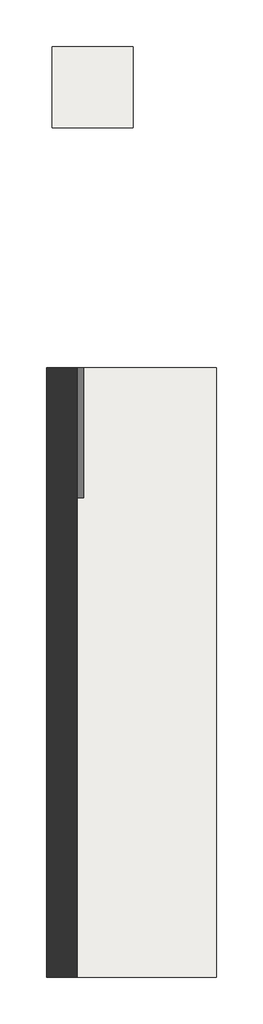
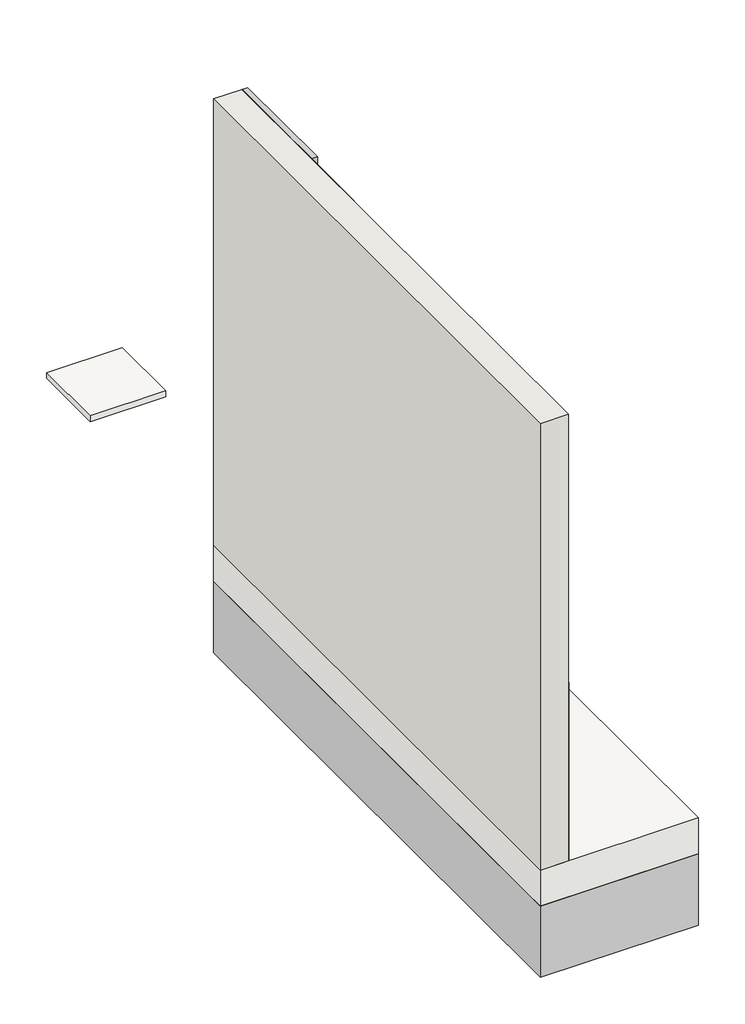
# One storey: 2 slabs, 1 proxy, 1 wall.
"""IFC4 building model written with IfcOpenShell, lengths in millimetres."""

import ifcopenshell
import ifcopenshell.guid

model = None  # the IFC model being written
_history = None  # IfcOwnerHistory: only IFC2X3 demands one
_inside = {}  # id of a spatial element -> (the spatial element, [elements in it])
_under = {}  # id of a project, library or spatial element -> (it, [spatial elements below it])
_declared = {}  # id of a project -> (the project, [libraries it declares])
_typed = {}  # id of a type object -> (the type object, [elements of that type])
_made_of = {}  # id of a material, layer set ... -> (it, [elements and type objects made of it])


def new_model(schema):
    """Start an empty IFC model of exactly this schema.

    Asked for "IFC4X3", IfcOpenShell would pick the latest addendum, in which some entities
    have other attributes; the version numbers below select the first issue.
    IFC2X3 requires an IfcOwnerHistory on every rooted entity: one is made here for all.
    """
    global model, _history
    if schema == "IFC4X3":
        model = ifcopenshell.file(schema_version=(4, 3, 0, 0))
    else:
        model = ifcopenshell.file(schema=schema)
    _inside.clear()
    _under.clear()
    _declared.clear()
    _typed.clear()
    _made_of.clear()
    _history = None
    if model.schema == "IFC2X3":
        org = make("IfcOrganization", Name="unknown")
        user = make(
            "IfcPersonAndOrganization",
            ThePerson=make("IfcPerson", FamilyName="unknown"),
            TheOrganization=org,
        )
        app = make(
            "IfcApplication",
            ApplicationDeveloper=org,
            Version="unknown",
            ApplicationFullName="unknown",
            ApplicationIdentifier="unknown",
        )
        _history = make(
            "IfcOwnerHistory",
            OwningUser=user,
            OwningApplication=app,
            ChangeAction="ADDED",
            CreationDate=0,
        )
    return model


def make(cls, **values):
    """One entity of the class cls with the attributes given. An attribute that is None is left unset."""
    return model.create_entity(
        cls, **{name: value for name, value in values.items() if value is not None}
    )


def rooted(cls, **values):
    """An entity with a GlobalId (a new one), such as an element, a storey or a relation."""
    return make(cls, GlobalId=ifcopenshell.guid.new(), OwnerHistory=_history, **values)


def si_unit(unit_type, name, prefix=None):
    """IfcSIUnit, for example si_unit("LENGTHUNIT", "METRE", prefix="MILLI")."""
    return make("IfcSIUnit", UnitType=unit_type, Prefix=prefix, Name=name)


def assignment(units):
    """IfcUnitAssignment: the units of a project."""
    return None if units is None else make("IfcUnitAssignment", Units=units)


def point(xyz):
    """IfcCartesianPoint."""
    return None if xyz is None else make("IfcCartesianPoint", Coordinates=xyz)


def direction(xyz):
    """IfcDirection."""
    return None if xyz is None else make("IfcDirection", DirectionRatios=xyz)


def frame(location, z_axis=None, x_axis=None):
    """IfcAxis2Placement3D, a coordinate frame: its origin and axes. An axis left out is left unset."""
    return make(
        "IfcAxis2Placement3D",
        Location=point(location),
        Axis=direction(z_axis),
        RefDirection=direction(x_axis),
    )


def origin():
    """The frame at (0, 0, 0) with its axes left unset."""
    return frame((0.0, 0.0, 0.0))


def place(relative_to, where):
    """IfcLocalPlacement: puts the frame where relative to a parent placement (None: the world)."""
    return make(
        "IfcLocalPlacement", PlacementRelTo=relative_to, RelativePlacement=where
    )


def context(
    kind, dimensions, precision=None, world=None, true_north=None, identifier=None
):
    """IfcGeometricRepresentationContext, for example the 3D "Model" context."""
    return make(
        "IfcGeometricRepresentationContext",
        ContextIdentifier=identifier,
        ContextType=kind,
        CoordinateSpaceDimension=dimensions,
        Precision=precision,
        WorldCoordinateSystem=world,
        TrueNorth=true_north,
    )


def project(units=None, contexts=None):
    """IfcProject with its units and contexts."""
    return rooted(
        "IfcProject",
        Name="project",
        RepresentationContexts=contexts,
        UnitsInContext=assignment(units),
    )


def spatial(cls, under=None, at=None, **own):
    """A site, building, storey or space (cls), placed at a placement, below another one or the project."""
    s = rooted(cls, ObjectPlacement=at, **own)
    if under is not None:
        _under.setdefault(under.id(), (under, []))[1].append(s)
    return s


def polyline(points):
    """IfcPolyline through the points."""
    return make("IfcPolyline", Points=[point(p) for p in points])


def outline(outer, holes=None, kind="AREA"):
    """IfcArbitraryClosedProfileDef: a profile drawn as a closed curve; with holes, ...WithVoids."""
    if holes is None:
        return make("IfcArbitraryClosedProfileDef", ProfileType=kind, OuterCurve=outer)
    return make(
        "IfcArbitraryProfileDefWithVoids",
        ProfileType=kind,
        OuterCurve=outer,
        InnerCurves=holes,
    )


def extrude(swept, where, along, depth):
    """IfcExtrudedAreaSolid: the profile swept, set in the frame where, extruded along a direction by depth."""
    return make(
        "IfcExtrudedAreaSolid",
        SweptArea=swept,
        Position=where,
        ExtrudedDirection=direction(along),
        Depth=depth,
    )


def shape(context_of_items, identifier, shape_type, items):
    """IfcShapeRepresentation: the items that make up one representation, for example the "Body"."""
    return make(
        "IfcShapeRepresentation",
        ContextOfItems=context_of_items,
        RepresentationIdentifier=identifier,
        RepresentationType=shape_type,
        Items=items,
    )


def source(mapping_origin, context_of_items, identifier, shape_type, items):
    """IfcRepresentationMap: a shape defined once, which mapped items show again and again."""
    return make(
        "IfcRepresentationMap",
        MappingOrigin=mapping_origin,
        MappedRepresentation=shape(context_of_items, identifier, shape_type, items),
    )


def transform(
    local_origin,
    x_axis=None,
    y_axis=None,
    z_axis=None,
    scale=None,
    scale2=None,
    scale3=None,
    uniform=True,
):
    """IfcCartesianTransformationOperator3D, or its non-uniform kind. x_axis, y_axis, z_axis: its Axis1, 2, 3."""
    if uniform:
        return make(
            "IfcCartesianTransformationOperator3D",
            Axis1=direction(x_axis),
            Axis2=direction(y_axis),
            LocalOrigin=point(local_origin),
            Scale=scale,
            Axis3=direction(z_axis),
        )
    return make(
        "IfcCartesianTransformationOperator3DnonUniform",
        Axis1=direction(x_axis),
        Axis2=direction(y_axis),
        LocalOrigin=point(local_origin),
        Scale=scale,
        Axis3=direction(z_axis),
        Scale2=scale2,
        Scale3=scale3,
    )


def mapped(mapping_source, mapping_target):
    """IfcMappedItem: shows the shape of a source again, moved by a transform."""
    return make(
        "IfcMappedItem", MappingSource=mapping_source, MappingTarget=mapping_target
    )


def made_of(thing, what):
    """Note that an element or type object is made of a material, layer set ...; save() writes the relation."""
    if what is not None:
        _made_of.setdefault(what.id(), (what, []))[1].append(thing)
    return thing


def element(
    cls,
    number,
    at=None,
    inside=None,
    cuts=None,
    type_object=None,
    material=None,
    context=None,
    identifier="Body",
    shape_type=None,
    held_by="IfcProductDefinitionShape",
    body=None,
    shapes=None,
    **own,
):
    """One element of the class cls, such as IfcWall. Its Tag is "e" and its number.

    at: its placement. inside: the storey or other place that contains it. cuts: it is an
    opening in that element (IfcRelVoidsElement). A single representation is given by context,
    identifier, shape_type and body (its items); several are given by shapes. held_by: the class
    of the entity that holds the representations. save() writes the other relations.
    """
    e = rooted(cls, Tag="e%d" % number, ObjectPlacement=at, **own)
    if body is not None:
        shapes = [shape(context, identifier, shape_type, body)]
    if shapes is not None:
        e.Representation = make(held_by, Representations=shapes)
    if inside is not None:
        _inside.setdefault(inside.id(), (inside, []))[1].append(e)
    if cuts is not None:
        rooted(
            "IfcRelVoidsElement", RelatingBuildingElement=cuts, RelatedOpeningElement=e
        )
    if type_object is not None:
        _typed.setdefault(type_object.id(), (type_object, []))[1].append(e)
    return made_of(e, material)


def aggregate(whole, parts):
    """IfcRelAggregates: a whole, such as a stair, and the parts it consists of."""
    return rooted("IfcRelAggregates", RelatingObject=whole, RelatedObjects=parts)


def save(model, path):
    """Write the relations noted so far, then the file.

    IfcRelAggregates (storeys below a building ...), IfcRelContainedInSpatialStructure (elements
    in a storey), IfcRelDefinesByType, IfcRelAssociatesMaterial and IfcRelDeclares: one each for
    every whole, place, type object, material and project.
    """
    for whole, parts in _under.values():
        aggregate(whole, parts)
    for where, things in _inside.values():
        rooted(
            "IfcRelContainedInSpatialStructure",
            RelatedElements=things,
            RelatingStructure=where,
        )
    for kind, things in _typed.values():
        rooted("IfcRelDefinesByType", RelatedObjects=things, RelatingType=kind)
    for what, things in _made_of.values():
        rooted("IfcRelAssociatesMaterial", RelatedObjects=things, RelatingMaterial=what)
    for by, libraries in _declared.values():
        rooted("IfcRelDeclares", RelatingContext=by, RelatedDefinitions=libraries)
    model.write(path)


def generic_models_ae3b01ae(model_context):
    return source(origin(), model_context, "Body", "SweptSolid", [
        extrude(outline(polyline([(-217.0499776, 874.3260192), (-216.0386675, 874.3260192), (-216.0386675, -2125.6739808), (-217.0499776, -2125.6739808), (-217.0499776, 874.3260192)])), frame((0.0, 0.0, -2.523798), z_axis=(0.0, 0.0, 1.0), x_axis=(1.0, 0.0, 0.0)), (0.0, 0.0, 1.0), 1000.0),
        extrude(outline(polyline([(-217.0499776, 874.3260192), (-185.0386675, 874.3260192), (-185.0386675, 234.3260192), (-217.0499776, 234.3260192), (-217.0499776, 874.3260192)])), frame((0.0, 0.0, -2.523798), z_axis=(0.0, 0.0, 1.0), x_axis=(1.0, 0.0, 0.0)), (0.0, 0.0, 1.0), 2500.0),
        extrude(outline(polyline([(-216.0386675, 874.3260192), (-215.0386675, 874.3260192), (-215.0386675, -154.1098976), (-216.0386675, -154.1098976), (-216.0386675, 874.3260192)])), frame((0.0, 0.0, -2.523798), z_axis=(0.0, 0.0, 1.0), x_axis=(1.0, 0.0, 0.0)), (0.0, 0.0, 1.0), 2500.0),
        extrude(outline(polyline([(469.984728, 874.3260192), (469.984728, -2125.6739808), (-367.0499776, -2125.6739808), (-367.0499776, 874.3260192), (469.984728, 874.3260192)])), frame((0.0, 0.0, -602.523798), z_axis=(0.0, 0.0, 1.0), x_axis=(1.0, 0.0, 0.0)), (0.0, 0.0, 1.0), 400.0),
    ])


model = new_model("IFC4")

# Units and contexts
model_context = context("Model", 3, world=origin())
ifc_project = project(units=[si_unit("LENGTHUNIT", "METRE", prefix="MILLI")], contexts=[model_context])

# Site, building, storey
site = spatial("IfcSite", under=ifc_project)
building = spatial("IfcBuilding", under=site)
storey = spatial("IfcBuildingStorey", under=building, Name="ARQ Térreo", Elevation=-2.523798)

# Proxy
placement = place(None, origin())
generic_models_shape = generic_models_ae3b01ae(model_context)
element("IfcBuildingElementProxy", 1, Name="IMPER:IMPER:433934 : IMPER:IMPER:433934", ObjectType="IMPER:IMPER:433934 : IMPER:IMPER:433934", at=placement, inside=storey, context=model_context, shape_type="MappedRepresentation", body=[
    mapped(generic_models_shape, transform((0.0, 0.0, 0.0), x_axis=(1.0, 0.0, 0.0), y_axis=(0.0, 1.0, 0.0), z_axis=(0.0, 0.0, 1.0))),
])

# Slabs
element("IfcSlab", 2, ObjectType="IMPH_VP1000", at=placement, inside=storey, context=model_context, shape_type="SweptSolid", body=[
    extrude(outline(polyline([(-339.4717852, 2454.1249925), (60.5282148, 2454.1249925), (60.5282148, 2054.1249925), (-339.4717852, 2054.1249925), (-339.4717852, 2454.1249925)])), frame((0.0, 0.0, -34.523798), z_axis=(0.0, 0.0, 1.0), x_axis=(1.0, 0.0, 0.0)), (0.0, 0.0, 1.0), 32.0),
])
element("IfcSlab", 3, ObjectType="Piso:LAJE CONCRETO", at=placement, inside=storey, context=model_context, shape_type="SweptSolid", body=[
    extrude(outline(polyline([(-367.0499776, 874.3260192), (469.984728, 874.3260192), (469.984728, -2125.6739808), (-367.0499776, -2125.6739808), (-367.0499776, 874.3260192)])), frame((0.0, 0.0, -202.523798), z_axis=(0.0, 0.0, 1.0), x_axis=(1.0, 0.0, 0.0)), (0.0, 0.0, 1.0), 200.0),
])

# Wall
element("IfcWall", 4, ObjectType="Parede de Alvenaria 2", at=placement, inside=storey, context=model_context, shape_type="SweptSolid", body=[
    extrude(outline(polyline([(-367.0499776, -2125.6739808), (-367.0499776, 874.3260192), (-217.0499776, 874.3260192), (-217.0499776, -2125.6739808), (-367.0499776, -2125.6739808)])), frame((0.0, 0.0, -2.523798), z_axis=(0.0, 0.0, 1.0), x_axis=(1.0, 0.0, 0.0)), (0.0, 0.0, 1.0), 2500.0),
])

save(model, "model.ifc")
